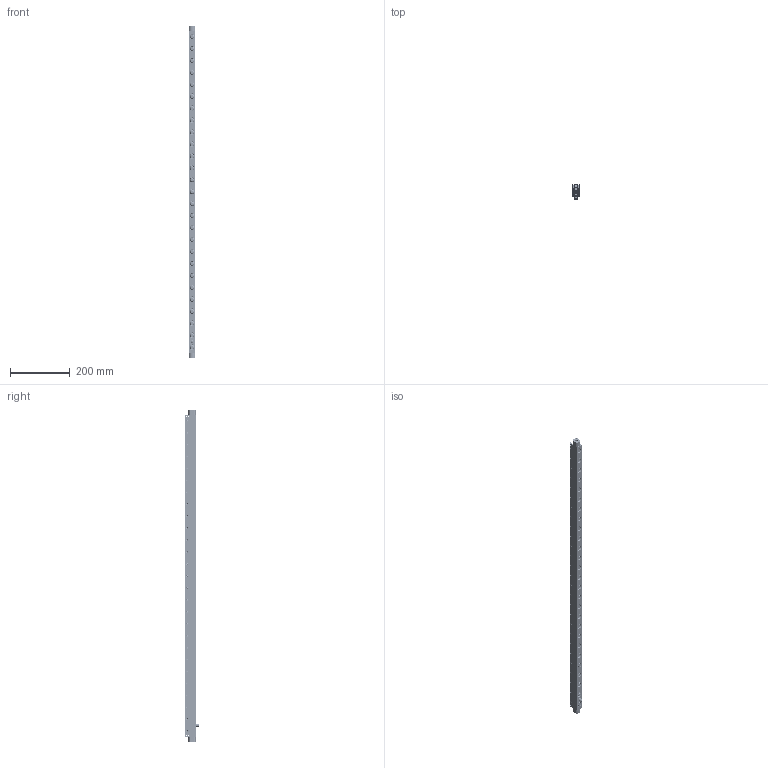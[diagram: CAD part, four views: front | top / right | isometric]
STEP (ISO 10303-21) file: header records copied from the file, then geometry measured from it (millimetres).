
FILE_DESCRIPTION(/* description */ (''),/* implementation_level */ '2;1');
FILE_NAME(/* name */ 'S:\EASCN Vault\Designs\Standard Part\DIE LIFTERS\EHR\EHR- 3D step\EHR22-C - 3D step complete serie\EHR22-27-C.stp',/* time_stamp */ '2019-09-16T10:31:41+08:00',/* author */ ('yue.yang'),/* organization */ (''),/* preprocessor_version */ 'ST-DEVELOPER v17',/* originating_system */ 'Autodesk Inventor 2019',/* authorisation */ '');
FILE_SCHEMA (('AUTOMOTIVE_DESIGN { 1 0 10303 214 3 1 1 }'));
Products named in the file (1): EHR22-27-C_Shrinkwrap_1
Bounding box: 21.8 x 48.05 x 1112 mm (x, y, z)
Volume: 675890.7 mm3; surface area: 257617.1 mm2
Topology: 8 solids, 8 shells, 1624 faces, 4799 edges, 3302 vertices
Faces by surface type: cylinder 556, plane 417, cone 300, torus 294, sphere 55, bspline 2
Full cylindrical faces by diameter (mm): 3 x10, 3.2 x8, 4 x8, 5 x108, 6 x36, 8.566 x2, 10 x3, 11 x27, 12.5 x54, 13.4 x27, 13.8 x27, 15.95 x54, 16 x78
Entity records: 61441 total; most frequent: CARTESIAN_POINT 13923, DIRECTION 10608, ORIENTED_EDGE 9536, EDGE_CURVE 4768, AXIS2_PLACEMENT_3D 4743, VERTEX_POINT 3306, CIRCLE 3118, EDGE_LOOP 1978
